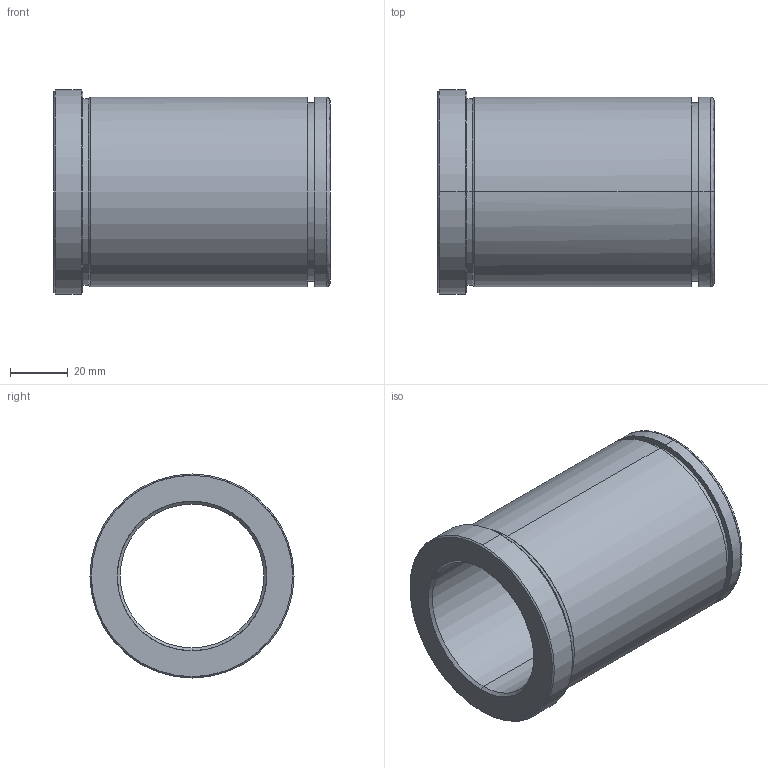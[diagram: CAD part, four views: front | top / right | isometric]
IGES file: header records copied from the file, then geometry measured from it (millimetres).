
Start section: START RECORD GO HERE.
Global section: file name: 553-50X96.igs; native system: DASSAULT SYSTEMES CATIA V5 R20 - www.3ds.com; preprocessor: CATIA Version 5 Release 20 ; author: Utente; organization: NB04-ASUS; date: 20210608.202430; units: millimetre
Bounding box: 96 x 71 x 71 mm (x, y, z)
Surface area: 39531.8 mm2 (no closed solid volume)
Topology: 0 solids, 0 shells, 29 faces, 184 edges, 184 vertices
Faces by surface type: revolution 24, plane 5
